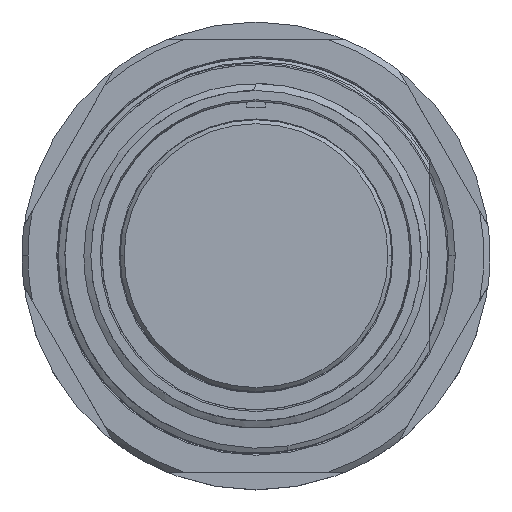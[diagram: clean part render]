
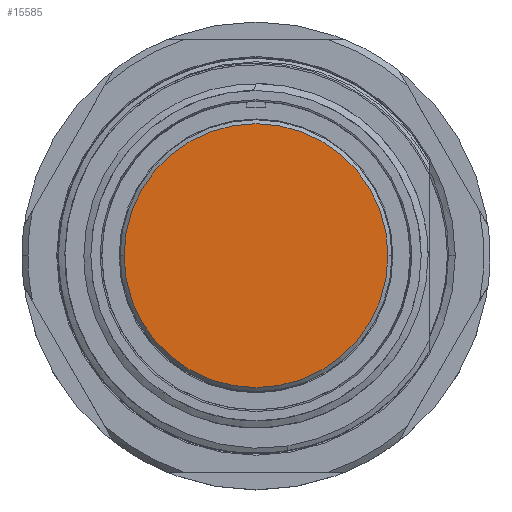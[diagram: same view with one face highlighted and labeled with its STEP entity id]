
A CAD part, top view. The second image highlights one B-rep face of the part: STEP entity #15585.
In plain terms, the highlighted planar face has unit normal (0, 0, 1).
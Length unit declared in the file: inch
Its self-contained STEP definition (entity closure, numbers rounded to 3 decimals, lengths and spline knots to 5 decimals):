
#374 = DIRECTION ( 'NONE',  ( 1., 0., 0. ) ) ;
#893 = ORIENTED_EDGE ( 'NONE', *, *, #1295, .T. ) ;
#1118 = CARTESIAN_POINT ( 'NONE',  ( 0., 0., -0.018 ) ) ;
#1295 = EDGE_CURVE ( 'NONE', #7887, #7108, #3269, .T. ) ;
#2813 = DIRECTION ( 'NONE',  ( 0., 0., 1. ) ) ;
#3269 = CIRCLE ( 'NONE', #11294, 0.667 ) ;
#4010 = FACE_OUTER_BOUND ( 'NONE', #6937, .T. ) ;
#6084 = AXIS2_PLACEMENT_3D ( 'NONE', #7496, #9032, #7825 ) ;
#6808 = CIRCLE ( 'NONE', #9113, 0.667 ) ;
#6922 = CARTESIAN_POINT ( 'NONE',  ( -0.667, 0., -0.018 ) ) ;
#6937 = EDGE_LOOP ( 'NONE', ( #12681, #893 ) ) ;
#7108 = VERTEX_POINT ( 'NONE', #6922 ) ;
#7187 = CARTESIAN_POINT ( 'NONE',  ( 0., 0., -0.018 ) ) ;
#7496 = CARTESIAN_POINT ( 'NONE',  ( 0., 0., -0.018 ) ) ;
#7825 = DIRECTION ( 'NONE',  ( 1., 0., 0. ) ) ;
#7887 = VERTEX_POINT ( 'NONE', #10704 ) ;
#9032 = DIRECTION ( 'NONE',  ( 0., 0., 1. ) ) ;
#9113 = AXIS2_PLACEMENT_3D ( 'NONE', #7187, #15869, #12203 ) ;
#9534 = EDGE_CURVE ( 'NONE', #7108, #7887, #6808, .T. ) ;
#10704 = CARTESIAN_POINT ( 'NONE',  ( 0.667, 0., -0.018 ) ) ;
#11226 = PLANE ( 'NONE',  #6084 ) ;
#11294 = AXIS2_PLACEMENT_3D ( 'NONE', #1118, #2813, #374 ) ;
#12203 = DIRECTION ( 'NONE',  ( 1., 0., 0. ) ) ;
#12681 = ORIENTED_EDGE ( 'NONE', *, *, #9534, .T. ) ;
#15585 = ADVANCED_FACE ( 'NONE', ( #4010 ), #11226, .T. ) ;
#15869 = DIRECTION ( 'NONE',  ( 0., 0., 1. ) ) ;
